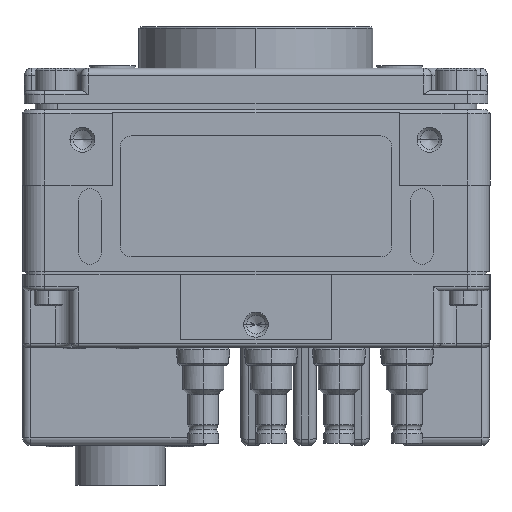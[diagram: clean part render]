
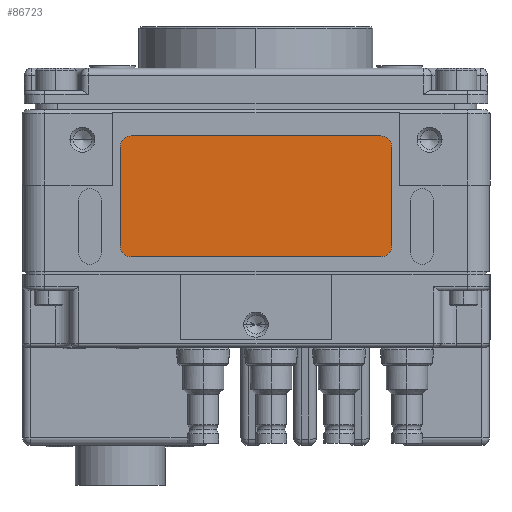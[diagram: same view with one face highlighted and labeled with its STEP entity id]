
A CAD part, front view. The second image highlights one B-rep face of the part: STEP entity #86723.
In plain terms, the highlighted planar face has unit normal (0, -1, 0).
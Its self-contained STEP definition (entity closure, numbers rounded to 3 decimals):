
#29536=DIRECTION('',(1.,0.,0.));
#29537=VECTOR('',#29536,33.);
#29538=CARTESIAN_POINT('',(-72.112,168.4,73.001));
#29539=LINE('',#29538,#29537);
#29548=CARTESIAN_POINT('',(-39.112,168.4,58.501));
#29549=DIRECTION('',(0.,-1.,0.));
#29550=DIRECTION('',(0.,0.,-1.));
#29551=AXIS2_PLACEMENT_3D('',#29548,#29549,#29550);
#29553=CARTESIAN_POINT('',(-72.112,168.4,58.501));
#29554=DIRECTION('',(0.,-1.,0.));
#29555=DIRECTION('',(-1.,0.,0.));
#29556=AXIS2_PLACEMENT_3D('',#29553,#29554,#29555);
#29558=CARTESIAN_POINT('',(-72.112,168.4,71.501));
#29559=DIRECTION('',(0.,-1.,0.));
#29560=DIRECTION('',(0.,0.,1.));
#29561=AXIS2_PLACEMENT_3D('',#29558,#29559,#29560);
#29563=CARTESIAN_POINT('',(-39.112,168.4,71.501));
#29564=DIRECTION('',(0.,-1.,0.));
#29565=DIRECTION('',(1.,0.,0.));
#29566=AXIS2_PLACEMENT_3D('',#29563,#29564,#29565);
#29568=DIRECTION('',(0.,0.,-1.));
#29569=VECTOR('',#29568,13.);
#29570=CARTESIAN_POINT('',(-37.612,168.4,71.501));
#29571=LINE('',#29570,#29569);
#29580=DIRECTION('',(-1.,0.,0.));
#29581=VECTOR('',#29580,33.);
#29582=CARTESIAN_POINT('',(-39.112,168.4,57.001));
#29583=LINE('',#29582,#29581);
#29592=DIRECTION('',(0.,0.,1.));
#29593=VECTOR('',#29592,13.);
#29594=CARTESIAN_POINT('',(-73.612,168.4,58.501));
#29595=LINE('',#29594,#29593);
#34275=CARTESIAN_POINT('',(-73.612,168.4,71.501));
#34276=VERTEX_POINT('',#34275);
#34277=CARTESIAN_POINT('',(-73.612,168.4,58.501));
#34278=VERTEX_POINT('',#34277);
#34707=CARTESIAN_POINT('',(-39.112,168.4,57.001));
#34708=VERTEX_POINT('',#34707);
#34709=CARTESIAN_POINT('',(-37.612,168.4,58.501));
#34710=VERTEX_POINT('',#34709);
#35125=CARTESIAN_POINT('',(-37.612,168.4,71.501));
#35126=VERTEX_POINT('',#35125);
#35127=CARTESIAN_POINT('',(-39.112,168.4,73.001));
#35128=VERTEX_POINT('',#35127);
#35145=CARTESIAN_POINT('',(-72.112,168.4,57.001));
#35146=VERTEX_POINT('',#35145);
#35243=CARTESIAN_POINT('',(-72.112,168.4,73.001));
#35244=VERTEX_POINT('',#35243);
#86702=CARTESIAN_POINT('',(-55.612,168.4,64.801));
#86703=DIRECTION('',(0.,-1.,0.));
#86704=DIRECTION('',(1.,0.,0.));
#86705=AXIS2_PLACEMENT_3D('',#86702,#86703,#86704);
#86706=PLANE('',#86705);
#86708=ORIENTED_EDGE('',*,*,#86707,.T.);
#86710=ORIENTED_EDGE('',*,*,#86709,.F.);
#86712=ORIENTED_EDGE('',*,*,#86711,.T.);
#86714=ORIENTED_EDGE('',*,*,#86713,.F.);
#86716=ORIENTED_EDGE('',*,*,#86715,.T.);
#86717=ORIENTED_EDGE('',*,*,#86694,.F.);
#86718=ORIENTED_EDGE('',*,*,#86683,.T.);
#86720=ORIENTED_EDGE('',*,*,#86719,.F.);
#86721=EDGE_LOOP('',(#86708,#86710,#86712,#86714,#86716,#86717,#86718,#86720));
#86722=FACE_OUTER_BOUND('',#86721,.F.);
#86723=ADVANCED_FACE('',(#86722),#86706,.T.);
#29552=CIRCLE('',#29551,1.5);
#29557=CIRCLE('',#29556,1.5);
#29562=CIRCLE('',#29561,1.5);
#29567=CIRCLE('',#29566,1.5);
#86683=EDGE_CURVE('',#35244,#35128,#29539,.T.);
#86694=EDGE_CURVE('',#35244,#34276,#29562,.T.);
#86707=EDGE_CURVE('',#35126,#34710,#29571,.T.);
#86709=EDGE_CURVE('',#34708,#34710,#29552,.T.);
#86711=EDGE_CURVE('',#34708,#35146,#29583,.T.);
#86713=EDGE_CURVE('',#34278,#35146,#29557,.T.);
#86715=EDGE_CURVE('',#34278,#34276,#29595,.T.);
#86719=EDGE_CURVE('',#35126,#35128,#29567,.T.);
